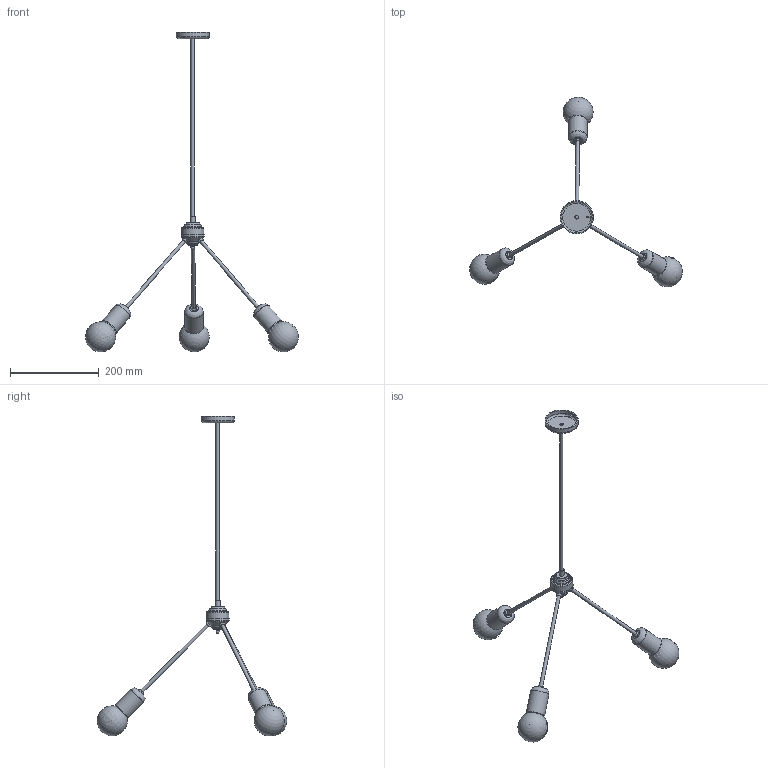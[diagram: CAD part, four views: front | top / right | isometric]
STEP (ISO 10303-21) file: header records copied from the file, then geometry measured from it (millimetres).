
FILE_DESCRIPTION(/* description */ (''),/* implementation_level */ '2;1');
FILE_NAME(/* name */ 'C:\Users\Patryk\Desktop\Modele MOSIĄDZ\TRIO STICK\LAMPA TRIO STICK.stp',/* time_stamp */ '2019-12-15T01:54:58+01:00',/* author */ ('Patryk'),/* organization */ (''),/* preprocessor_version */ 'ST-DEVELOPER v17',/* originating_system */ 'Autodesk Inventor 2019',/* authorisation */ '');
FILE_SCHEMA (('AUTOMOTIVE_DESIGN { 1 0 10303 214 3 1 1 }'));
Length unit declared in the file: millimetre
Products named in the file (11): LAMPA TRIO STICK; FUNK kulka; THYHM mocowanie kloszy; TRIO tulejka; T14 mocowanie do ściany; TRIO STICK rurka; sruba; TRIO rura; b56 pierscien maly; T56 klosz; klosz II
Assembly tree (21 placements, depth 2):
  LAMPA TRIO STICK
    FUNK kulka
    THYHM mocowanie kloszy
    TRIO tulejka
    T14 mocowanie do ściany
    TRIO STICK rurka
    sruba
    b56 pierscien maly  x6
    TRIO rura  x3
    T56 klosz  x3
    klosz II  x3
Bounding box: 479.97 x 427.71 x 721.32 mm (x, y, z)
Volume: 714395.8 mm3; surface area: 156154.1 mm2
Topology: 21 solids, 21 shells, 108 faces, 240 edges, 170 vertices
Faces by surface type: plane 48, cylinder 30, torus 13, bspline 7, sphere 5, cone 5
Full cylindrical faces by diameter (mm): 2.5 x1, 4 x2, 8 x11, 11 x1, 28.487 x3, 40 x4, 42 x3, 50 x2, 52 x1, 71 x1, 75 x1
Entity records: 2553 total; most frequent: CARTESIAN_POINT 495, DIRECTION 424, ORIENTED_EDGE 286, AXIS2_PLACEMENT_3D 190, EDGE_CURVE 143, VERTEX_POINT 100, CIRCLE 91, EDGE_LOOP 83
